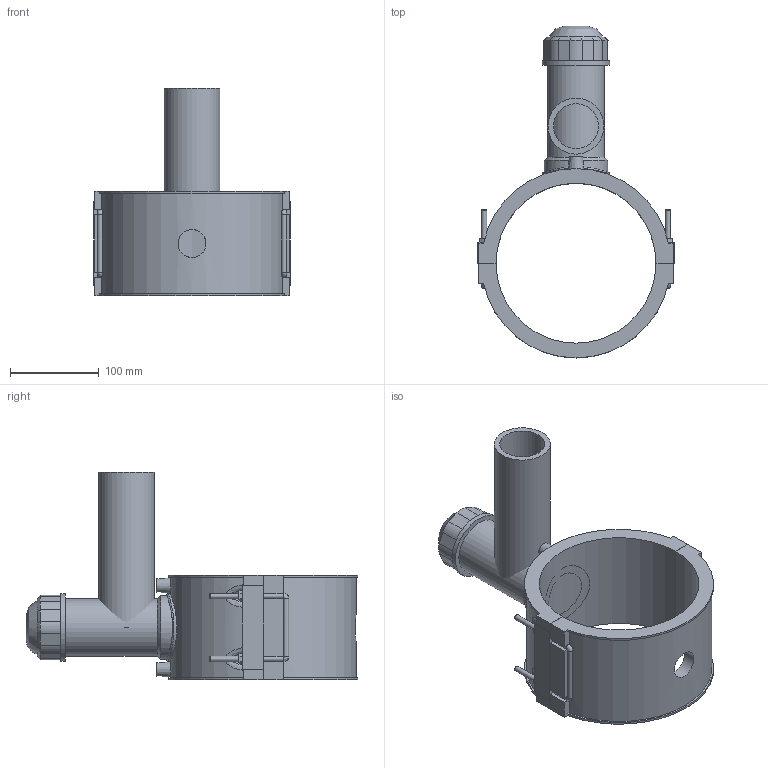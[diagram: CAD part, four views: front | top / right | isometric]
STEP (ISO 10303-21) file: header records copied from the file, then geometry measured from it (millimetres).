
FILE_DESCRIPTION(/* description */ (''),/* implementation_level */ '2;1');
FILE_NAME(/* name */ 'C:\Dropbox\KIMPROJECTS-Inventor 2019\99-16-3568-Processing\ElectroFusion Fittings\4963P4\stp\4963P4180063.stp',/* time_stamp */ '2022-03-17T11:31:21+02:00',/* author */ ('KIM'),/* organization */ (''),/* preprocessor_version */ 'ST-DEVELOPER v17.2',/* originating_system */ 'Autodesk Inventor 2019',/* authorisation */ '');
FILE_SCHEMA (('AUTOMOTIVE_DESIGN { 1 0 10303 214 3 1 1 }'));
Length unit declared in the file: millimetre
Products named in the file (1): 4963P4180063
Bounding box: 221 x 373.49 x 234 mm (x, y, z)
Volume: 1645577.6 mm3; surface area: 323125.4 mm2
Topology: 3 solids, 3 shells, 194 faces, 495 edges, 317 vertices
Faces by surface type: plane 112, cylinder 53, cone 15, bspline 14
Full cylindrical faces by diameter (mm): 4 x2, 6 x8, 10 x2, 31.36 x1, 50.4 x1, 52.92 x1, 63 x1, 64.26 x1, 71.82 x1, 75.6 x2
Entity records: 7038 total; most frequent: CARTESIAN_POINT 2362, ORIENTED_EDGE 974, DIRECTION 926, EDGE_CURVE 487, VERTEX_POINT 317, AXIS2_PLACEMENT_3D 315, LINE 296, VECTOR 296
